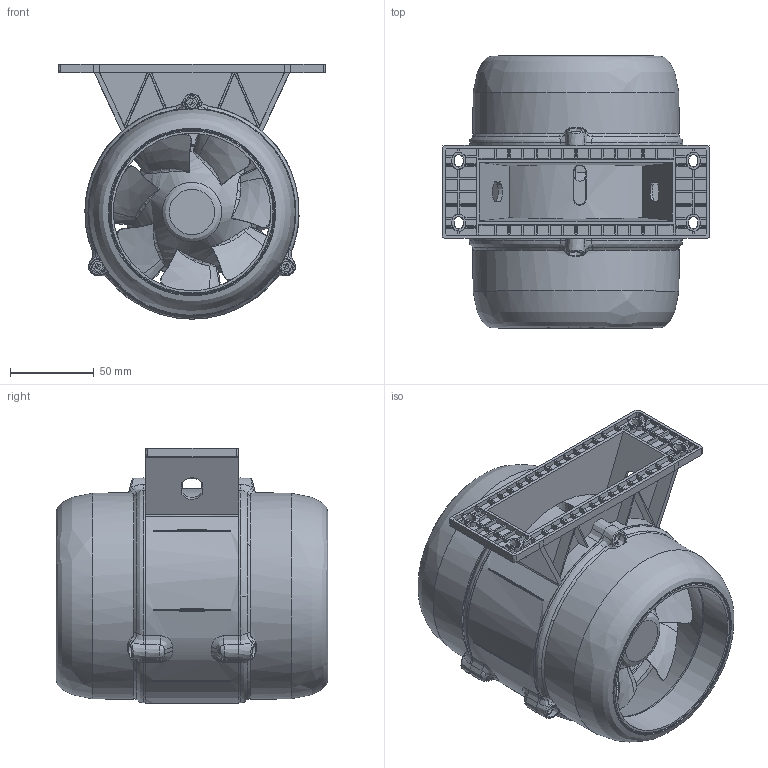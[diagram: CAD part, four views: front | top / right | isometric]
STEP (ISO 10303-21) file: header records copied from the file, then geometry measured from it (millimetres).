
FILE_DESCRIPTION ((), '1');
FILE_NAME ('C:\Users\Administrator\Desktop\塑料风机产品页\A125.stp', '2026-09-11T17:40:50', ('Unknown'), ('Unknown'), 'HarmonyWare STEP v2.1.4', 'HarmonyWare Translators', '');
FILE_SCHEMA (('CONFIG_CONTROL_DESIGN'));
Length unit declared in the file: millimetre
Products named in the file (11): 100风机塑胶壳款_objects
Assembly tree (10 placements, depth 2):
  (unnamed)
    100风机塑胶壳款_objects
    100风机塑胶壳款_objects
    100风机塑胶壳款_objects
    100风机塑胶壳款_objects
    100风机塑胶壳款_objects
    100风机塑胶壳款_objects
    100风机塑胶壳款_objects
    100风机塑胶壳款_objects
    100风机塑胶壳款_objects
    100风机塑胶壳款_objects
Bounding box: 160 x 162.41 x 152.51 mm (x, y, z)
Volume: 394101.6 mm3; surface area: 395297.3 mm2
Topology: 9 solids, 37 shells, 2942 faces, 8585 edges, 5642 vertices
Faces by surface type: bspline 2942
Entity records: 223644 total; most frequent: CARTESIAN_POINT 156592, ORIENTED_EDGE 16821, EDGE_CURVE 8508, B_SPLINE_CURVE_WITH_KNOTS 6568, VERTEX_POINT 5626, EDGE_LOOP 3056, FACE_OUTER_BOUND 2942, ADVANCED_FACE 2942
